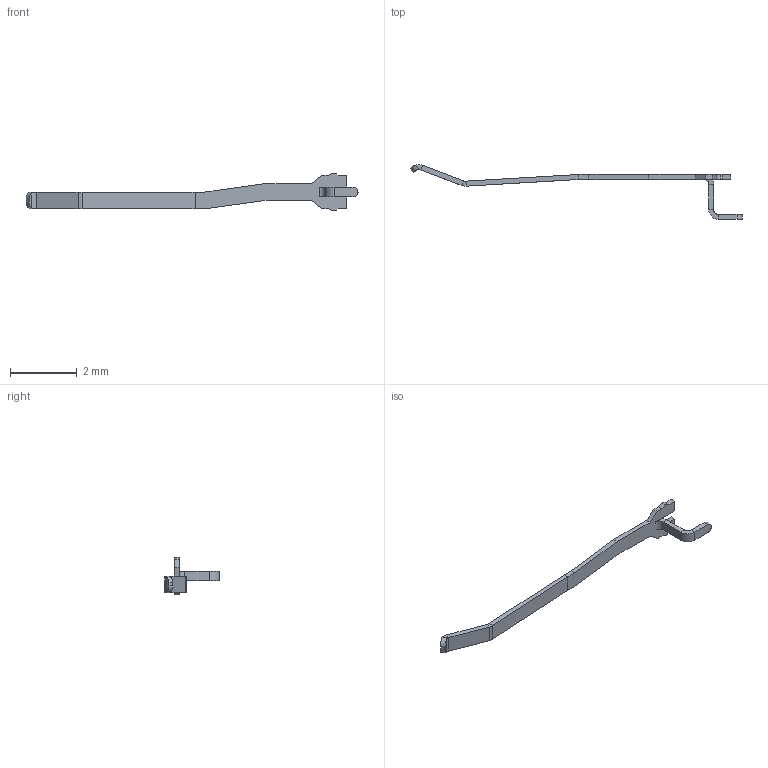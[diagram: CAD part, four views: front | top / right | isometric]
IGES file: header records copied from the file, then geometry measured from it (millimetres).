
Start section:  PTC IGES file: t-dsc20-400x00_1_prt.igs
Global section: file name: t-dsc20-400x00_1_prt.igs; native system: Pro/ENGINEER by Parametric Technology Corporation; preprocessor: 2006170; author: GRA; organization: Unknown; date: 20080630.105214; units: millimetre
Bounding box: 9.96 x 1.65 x 1.14 mm (x, y, z)
Surface area: 15.4 mm2 (no closed solid volume)
Topology: 0 solids, 0 shells, 63 faces, 306 edges, 306 vertices
Faces by surface type: bspline 50, revolution 13
